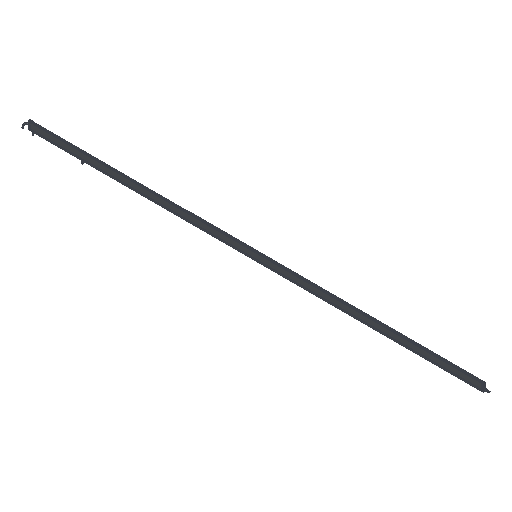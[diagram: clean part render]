
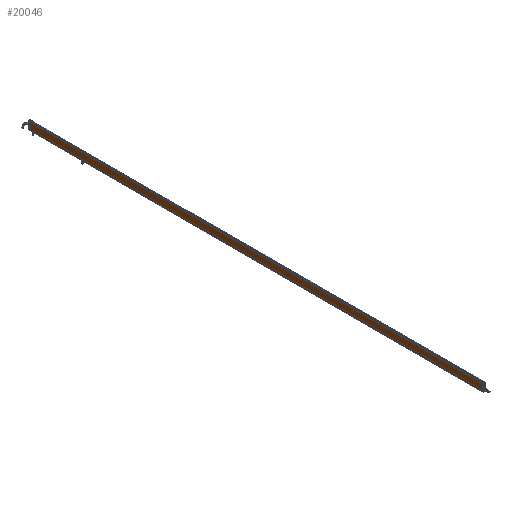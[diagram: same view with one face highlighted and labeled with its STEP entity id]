
A CAD part, isometric view. The second image highlights one B-rep face of the part: STEP entity #20046.
In plain terms, the highlighted planar face has unit normal (-1, 0, 0).
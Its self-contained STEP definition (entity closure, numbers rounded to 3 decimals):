
#10 = VECTOR ( 'NONE', #11867, 1000. ) ;
#1130 = EDGE_CURVE ( 'NONE', #6505, #4545, #19543, .T. ) ;
#2001 = LINE ( 'NONE', #6112, #19629 ) ;
#2998 = LINE ( 'NONE', #13674, #10 ) ;
#4545 = VERTEX_POINT ( 'NONE', #12876 ) ;
#5634 = DIRECTION ( 'NONE',  ( 0., 0., -1. ) ) ;
#5837 = EDGE_CURVE ( 'NONE', #4545, #7923, #2998, .T. ) ;
#6112 = CARTESIAN_POINT ( 'NONE',  ( -9., 1835., 0.5 ) ) ;
#6505 = VERTEX_POINT ( 'NONE', #7676 ) ;
#6933 = ORIENTED_EDGE ( 'NONE', *, *, #5837, .F. ) ;
#7496 = CARTESIAN_POINT ( 'NONE',  ( -9., 1835., 28.5 ) ) ;
#7616 = ORIENTED_EDGE ( 'NONE', *, *, #13802, .T. ) ;
#7676 = CARTESIAN_POINT ( 'NONE',  ( -9., 1835., 28.5 ) ) ;
#7775 = CARTESIAN_POINT ( 'NONE',  ( -9., 1835., 28.5 ) ) ;
#7923 = VERTEX_POINT ( 'NONE', #9245 ) ;
#8089 = VECTOR ( 'NONE', #15824, 1000. ) ;
#8275 = EDGE_LOOP ( 'NONE', ( #6933, #16060, #7616, #19427 ) ) ;
#9245 = CARTESIAN_POINT ( 'NONE',  ( -9., 0., 0.5 ) ) ;
#9536 = DIRECTION ( 'NONE',  ( 0., -1., 0. ) ) ;
#10449 = VERTEX_POINT ( 'NONE', #14912 ) ;
#10593 = PLANE ( 'NONE',  #17238 ) ;
#11071 = EDGE_CURVE ( 'NONE', #10449, #7923, #2001, .T. ) ;
#11867 = DIRECTION ( 'NONE',  ( 0., 0., -1. ) ) ;
#12876 = CARTESIAN_POINT ( 'NONE',  ( -9., 0., 28.5 ) ) ;
#13505 = CARTESIAN_POINT ( 'NONE',  ( -9., 1835., 28.5 ) ) ;
#13674 = CARTESIAN_POINT ( 'NONE',  ( -9., 0., 28.5 ) ) ;
#13802 = EDGE_CURVE ( 'NONE', #6505, #10449, #20418, .T. ) ;
#14912 = CARTESIAN_POINT ( 'NONE',  ( -9., 1835., 0.5 ) ) ;
#15824 = DIRECTION ( 'NONE',  ( 0., -1., 0. ) ) ;
#16060 = ORIENTED_EDGE ( 'NONE', *, *, #1130, .F. ) ;
#16292 = FACE_OUTER_BOUND ( 'NONE', #8275, .T. ) ;
#17140 = VECTOR ( 'NONE', #5634, 1000. ) ;
#17238 = AXIS2_PLACEMENT_3D ( 'NONE', #7496, #20249, #18491 ) ;
#18491 = DIRECTION ( 'NONE',  ( 0., -1., 0. ) ) ;
#19427 = ORIENTED_EDGE ( 'NONE', *, *, #11071, .T. ) ;
#19543 = LINE ( 'NONE', #7775, #8089 ) ;
#19629 = VECTOR ( 'NONE', #9536, 1000. ) ;
#20046 = ADVANCED_FACE ( 'NONE', ( #16292 ), #10593, .T. ) ;
#20249 = DIRECTION ( 'NONE',  ( -1., 0., 0. ) ) ;
#20418 = LINE ( 'NONE', #13505, #17140 ) ;
